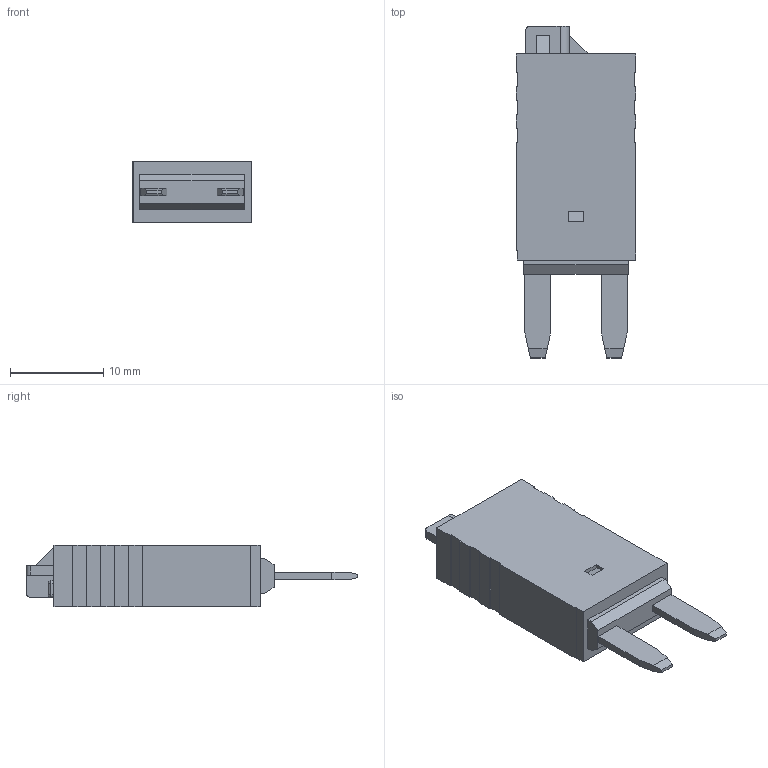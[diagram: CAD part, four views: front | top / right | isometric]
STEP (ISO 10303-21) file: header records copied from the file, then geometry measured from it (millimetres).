
FILE_DESCRIPTION(/* description */ (''),/* implementation_level */ '2;1');
FILE_NAME(/* name */ 'C:\Users\Hani\Desktop\work\MRCBP4-PM-B\MRCBP4-PM-B.stp',/* time_stamp */ '2019-11-24T15:43:57-08:00',/* author */ ('Hani'),/* organization */ (''),/* preprocessor_version */ 'ST-DEVELOPER v17',/* originating_system */ 'Autodesk Inventor 2019',/* authorisation */ '');
FILE_SCHEMA (('AUTOMOTIVE_DESIGN { 1 0 10303 214 3 1 1 }'));
Length unit declared in the file: millimetre
Products named in the file (1): MRCBP4-PM-B
Bounding box: 12.8 x 35.6 x 6.6 mm (x, y, z)
Volume: 1970.1 mm3; surface area: 1323.9 mm2
Topology: 1 solids, 1 shells, 100 faces, 261 edges, 170 vertices
Faces by surface type: plane 85, cylinder 11, sphere 4
Entity records: 3099 total; most frequent: CARTESIAN_POINT 532, ORIENTED_EDGE 522, DIRECTION 485, EDGE_CURVE 261, LINE 239, VECTOR 239, VERTEX_POINT 170, AXIS2_PLACEMENT_3D 123
